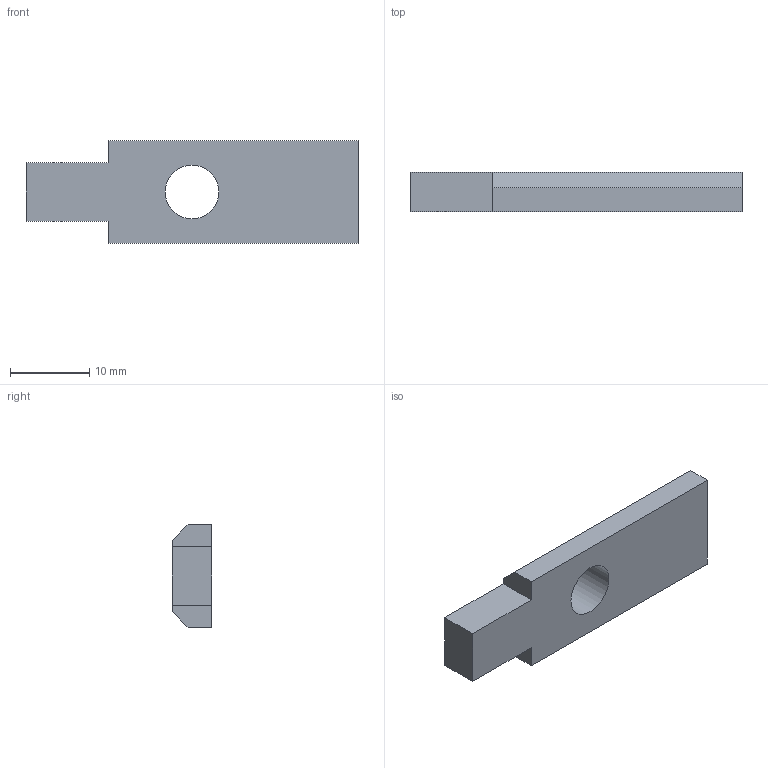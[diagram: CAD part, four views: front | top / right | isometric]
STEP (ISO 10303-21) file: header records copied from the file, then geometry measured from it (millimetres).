
FILE_DESCRIPTION (( 'STEP AP214' ), '1' );
FILE_NAME ('SF01025.step', '2024-12-03T16:29:40', ( '' ), ( '' ), 'SwSTEP 2.0', 'SolidWorks 2023', '' );
FILE_SCHEMA (( 'AUTOMOTIVE_DESIGN' ));
Length unit declared in the file: millimetre
Products named in the file (1): SF01025
Bounding box: 42 x 5 x 13 mm (x, y, z)
Volume: 2128.4 mm3; surface area: 1476.8 mm2
Topology: 1 solids, 1 shells, 13 faces, 33 edges, 22 vertices
Faces by surface type: plane 12, cylinder 1
Full cylindrical faces by diameter (mm): 6.8 x1
Entity records: 411 total; most frequent: CARTESIAN_POINT 68, ORIENTED_EDGE 64, DIRECTION 62, EDGE_CURVE 32, LINE 30, VECTOR 30, VERTEX_POINT 22, EDGE_LOOP 16
